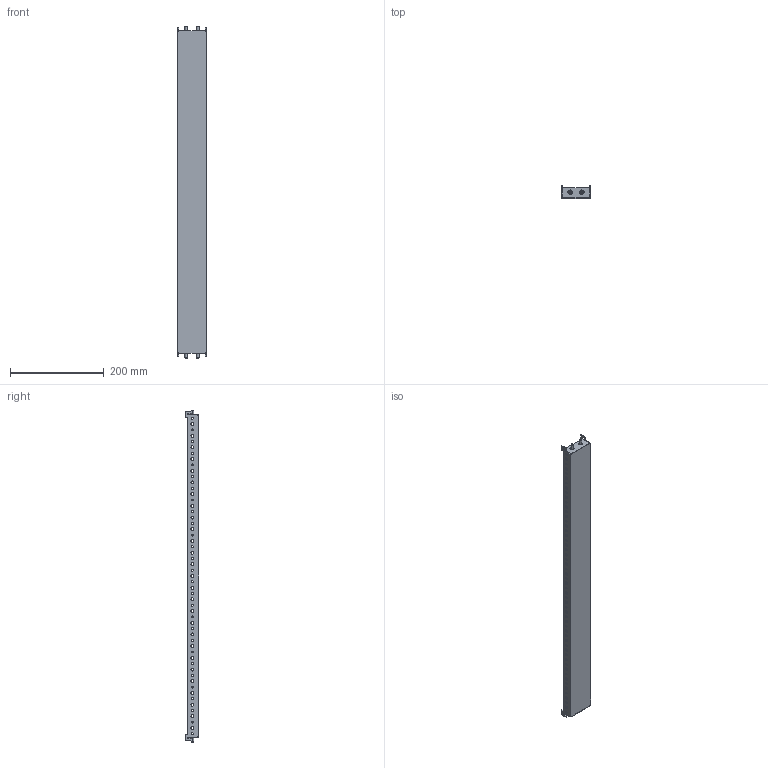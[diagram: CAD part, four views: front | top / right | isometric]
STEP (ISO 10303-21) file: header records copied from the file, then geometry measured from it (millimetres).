
FILE_DESCRIPTION(('Open CASCADE Model'),'2;1');
FILE_NAME('Open CASCADE Shape Model','2025-03-10T09:37:11',('Author'),( 'Open CASCADE'),'Open CASCADE STEP processor 7.8','Open CASCADE 7.8' ,'Unknown');
FILE_SCHEMA(('AUTOMOTIVE_DESIGN { 1 0 10303 214 1 1 1 1 }'));
Length unit declared in the file: millimetre
Products named in the file (3): Compound1; Solid1; Solid2
Assembly tree (5 placements, depth 2):
  Compound1
    Solid1
    Solid2  x4
Bounding box: 60 x 28 x 710 mm (x, y, z)
Volume: 108291 mm3; surface area: 149524.7 mm2
Topology: 5 solids, 5 shells, 386 faces, 1064 edges, 684 vertices
Faces by surface type: cylinder 244, plane 94, cone 16, torus 16, bspline 8, sphere 8
Entity records: 11310 total; most frequent: CARTESIAN_POINT 2047, DIRECTION 2022, ORIENTED_EDGE 1824, EDGE_CURVE 912, AXIS2_PLACEMENT_3D 802, VERTEX_POINT 603, FACE_BOUND 543, EDGE_LOOP 543
